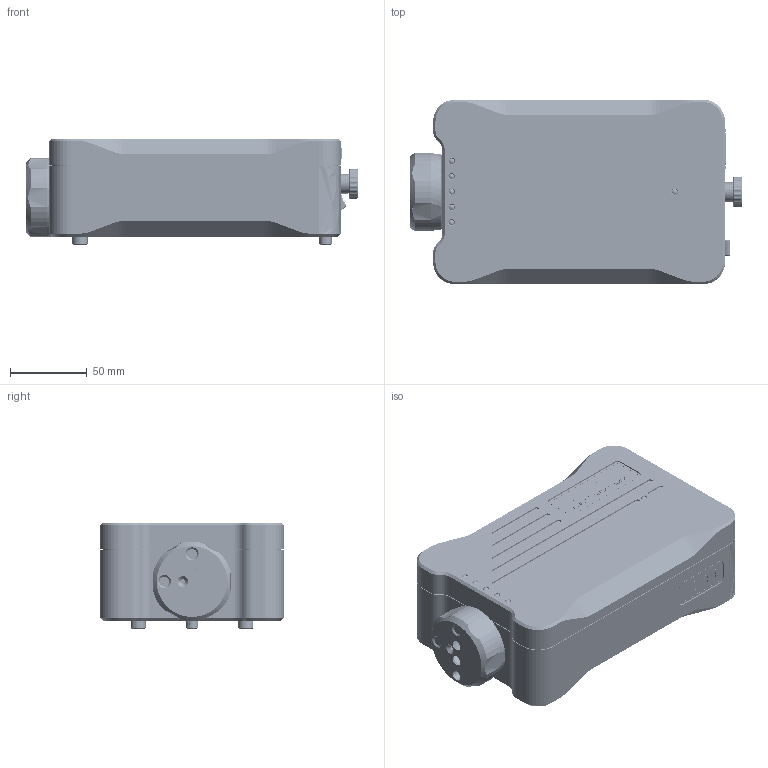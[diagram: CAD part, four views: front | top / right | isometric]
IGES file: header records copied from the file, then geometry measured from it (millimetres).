
Global section: file name: Y:\_LCPD Drawings\13.1 Lightweight Models\9908\LA-9908-0400-A  XL80 ASSEMBLY.igs; native system: NX V6.0; preprocessor: SIEMENS UGS NX 6.0; date: 20100127.083634; units: millimetre
Bounding box: 216.26 x 120 x 69.33 mm (x, y, z)
Surface area: 154977.1 mm2 (no closed solid volume)
Topology: 0 solids, 0 shells, 8706 faces, 48477 edges, 48316 vertices
Faces by surface type: bspline 8706
